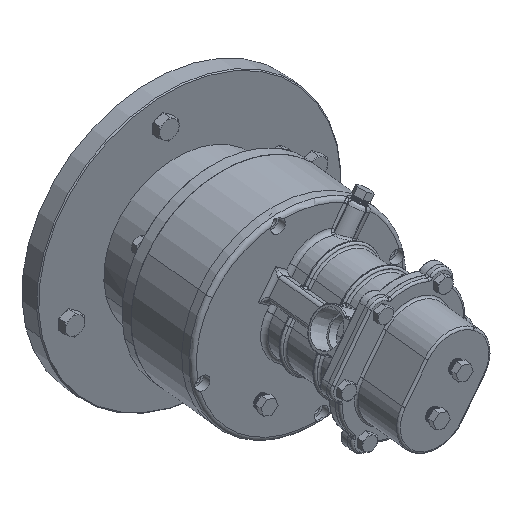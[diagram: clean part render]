
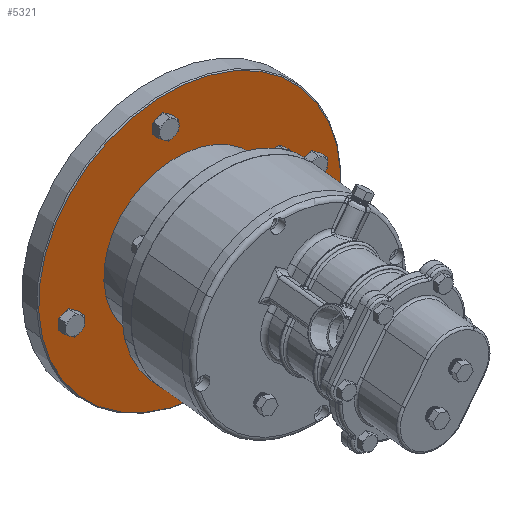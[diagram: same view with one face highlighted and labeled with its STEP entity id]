
A CAD part, left-side view. The second image highlights one B-rep face of the part: STEP entity #5321.
In plain terms, the highlighted planar face has unit normal (-0.668, -0.607, -0.431) as drawn and (0, 0, 1) by its records, which use the part's own axes.
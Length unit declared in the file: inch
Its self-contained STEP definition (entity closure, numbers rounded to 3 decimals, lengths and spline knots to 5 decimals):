
#198 = CARTESIAN_POINT ( 'NONE',  ( -0.28125, 3.625, 0.6 ) ) ;
#725 = CARTESIAN_POINT ( 'NONE',  ( 0., 0., 0.6 ) ) ;
#748 = DIRECTION ( 'NONE',  ( 1., 0., 0. ) ) ;
#1995 = EDGE_CURVE ( 'NONE', #20749, #5654, #6705, .T. ) ;
#2021 = VERTEX_POINT ( 'NONE', #29174 ) ;
#2352 = AXIS2_PLACEMENT_3D ( 'NONE', #11427, #22408, #33384 ) ;
#2671 = DIRECTION ( 'NONE',  ( 1., 0., 0. ) ) ;
#3735 = EDGE_LOOP ( 'NONE', ( #23057, #25587 ) ) ;
#3983 = CARTESIAN_POINT ( 'NONE',  ( 0., 3.625, 0.6 ) ) ;
#4232 = AXIS2_PLACEMENT_3D ( 'NONE', #4604, #9817, #26381 ) ;
#4425 = CARTESIAN_POINT ( 'NONE',  ( -4.39875, 0., 0.6 ) ) ;
#4491 = AXIS2_PLACEMENT_3D ( 'NONE', #26617, #18520, #21226 ) ;
#4604 = CARTESIAN_POINT ( 'NONE',  ( 0., -3.625, 0.6 ) ) ;
#4641 = CARTESIAN_POINT ( 'NONE',  ( 2.5, 0., 0.6 ) ) ;
#4677 = CARTESIAN_POINT ( 'NONE',  ( -2.5, 0., 0.6 ) ) ;
#5321 = ADVANCED_FACE ( 'NONE', ( #35129, #10478, #21484, #25241, #16785, #25077 ), #10832, .T. ) ;
#5654 = VERTEX_POINT ( 'NONE', #198 ) ;
#5755 = ORIENTED_EDGE ( 'NONE', *, *, #16629, .F. ) ;
#5763 = EDGE_CURVE ( 'NONE', #18726, #32126, #17936, .T. ) ;
#5972 = DIRECTION ( 'NONE',  ( 0., 0., 1. ) ) ;
#5997 = CARTESIAN_POINT ( 'NONE',  ( 0., 0., 0.6 ) ) ;
#6022 = CARTESIAN_POINT ( 'NONE',  ( -3.625, 0., 0.6 ) ) ;
#6641 = AXIS2_PLACEMENT_3D ( 'NONE', #3983, #14958, #15136 ) ;
#6705 = CIRCLE ( 'NONE', #26808, 0.28125 ) ;
#6740 = EDGE_CURVE ( 'NONE', #32335, #15333, #25901, .T. ) ;
#7145 = CARTESIAN_POINT ( 'NONE',  ( 0., 0., 0.6 ) ) ;
#7481 = DIRECTION ( 'NONE',  ( 0., 0., 1. ) ) ;
#9729 = EDGE_CURVE ( 'NONE', #10263, #20004, #23239, .T. ) ;
#9817 = DIRECTION ( 'NONE',  ( 0., 0., 1. ) ) ;
#9901 = DIRECTION ( 'NONE',  ( 1., 0., 0. ) ) ;
#10257 = EDGE_CURVE ( 'NONE', #31235, #28886, #21461, .T. ) ;
#10263 = VERTEX_POINT ( 'NONE', #29428 ) ;
#10464 = EDGE_LOOP ( 'NONE', ( #18206, #27876 ) ) ;
#10478 = FACE_BOUND ( 'NONE', #20433, .T. ) ;
#10532 = ORIENTED_EDGE ( 'NONE', *, *, #6740, .F. ) ;
#10655 = CIRCLE ( 'NONE', #6641, 0.28125 ) ;
#10832 = PLANE ( 'NONE',  #28415 ) ;
#11372 = EDGE_LOOP ( 'NONE', ( #21257, #26824 ) ) ;
#11427 = CARTESIAN_POINT ( 'NONE',  ( 3.625, 0., 0.6 ) ) ;
#12504 = EDGE_CURVE ( 'NONE', #28886, #31235, #26331, .T. ) ;
#12899 = AXIS2_PLACEMENT_3D ( 'NONE', #6022, #17006, #27968 ) ;
#13701 = CIRCLE ( 'NONE', #15432, 0.28125 ) ;
#14958 = DIRECTION ( 'NONE',  ( 0., 0., 1. ) ) ;
#15136 = DIRECTION ( 'NONE',  ( 1., 0., 0. ) ) ;
#15221 = CIRCLE ( 'NONE', #12899, 0.28125 ) ;
#15333 = VERTEX_POINT ( 'NONE', #18723 ) ;
#15432 = AXIS2_PLACEMENT_3D ( 'NONE', #24428, #30533, #2671 ) ;
#16179 = CARTESIAN_POINT ( 'NONE',  ( 0.28125, -3.625, 0.6 ) ) ;
#16629 = EDGE_CURVE ( 'NONE', #20004, #10263, #15221, .T. ) ;
#16785 = FACE_BOUND ( 'NONE', #10464, .T. ) ;
#16845 = EDGE_CURVE ( 'NONE', #15333, #32335, #13701, .T. ) ;
#16978 = DIRECTION ( 'NONE',  ( 1., 0., 0. ) ) ;
#17006 = DIRECTION ( 'NONE',  ( 0., 0., 1. ) ) ;
#17070 = DIRECTION ( 'NONE',  ( 1., 0., 0. ) ) ;
#17485 = AXIS2_PLACEMENT_3D ( 'NONE', #19637, #5972, #748 ) ;
#17777 = VERTEX_POINT ( 'NONE', #16179 ) ;
#17936 = CIRCLE ( 'NONE', #28817, 2.5 ) ;
#18206 = ORIENTED_EDGE ( 'NONE', *, *, #1995, .F. ) ;
#18466 = DIRECTION ( 'NONE',  ( 1., 0., 0. ) ) ;
#18520 = DIRECTION ( 'NONE',  ( 0., 0., 1. ) ) ;
#18723 = CARTESIAN_POINT ( 'NONE',  ( 3.90625, 0., 0.6 ) ) ;
#18726 = VERTEX_POINT ( 'NONE', #4677 ) ;
#18828 = CARTESIAN_POINT ( 'NONE',  ( 0., -3.625, 0.6 ) ) ;
#18980 = DIRECTION ( 'NONE',  ( 1., 0., 0. ) ) ;
#19637 = CARTESIAN_POINT ( 'NONE',  ( -3.625, 0., 0.6 ) ) ;
#19715 = EDGE_CURVE ( 'NONE', #5654, #20749, #10655, .T. ) ;
#20004 = VERTEX_POINT ( 'NONE', #33122 ) ;
#20343 = DIRECTION ( 'NONE',  ( 1., 0., 0. ) ) ;
#20433 = EDGE_LOOP ( 'NONE', ( #26887, #10532 ) ) ;
#20749 = VERTEX_POINT ( 'NONE', #30134 ) ;
#21102 = ORIENTED_EDGE ( 'NONE', *, *, #9729, .F. ) ;
#21226 = DIRECTION ( 'NONE',  ( 1., 0., 0. ) ) ;
#21257 = ORIENTED_EDGE ( 'NONE', *, *, #5763, .F. ) ;
#21461 = CIRCLE ( 'NONE', #28837, 4.39875 ) ;
#21484 = FACE_BOUND ( 'NONE', #31987, .T. ) ;
#22408 = DIRECTION ( 'NONE',  ( 0., 0., 1. ) ) ;
#22869 = EDGE_CURVE ( 'NONE', #17777, #2021, #23752, .T. ) ;
#23057 = ORIENTED_EDGE ( 'NONE', *, *, #10257, .T. ) ;
#23239 = CIRCLE ( 'NONE', #17485, 0.28125 ) ;
#23752 = CIRCLE ( 'NONE', #4232, 0.28125 ) ;
#23844 = ORIENTED_EDGE ( 'NONE', *, *, #22869, .F. ) ;
#24428 = CARTESIAN_POINT ( 'NONE',  ( 3.625, 0., 0.6 ) ) ;
#24539 = DIRECTION ( 'NONE',  ( 0., 0., 1. ) ) ;
#24743 = DIRECTION ( 'NONE',  ( 0., 0., 1. ) ) ;
#25077 = FACE_BOUND ( 'NONE', #11372, .T. ) ;
#25158 = DIRECTION ( 'NONE',  ( 0., 0., 1. ) ) ;
#25241 = FACE_BOUND ( 'NONE', #28142, .T. ) ;
#25430 = AXIS2_PLACEMENT_3D ( 'NONE', #18828, #24743, #18980 ) ;
#25472 = ORIENTED_EDGE ( 'NONE', *, *, #25904, .F. ) ;
#25587 = ORIENTED_EDGE ( 'NONE', *, *, #12504, .T. ) ;
#25598 = EDGE_CURVE ( 'NONE', #32126, #18726, #31168, .T. ) ;
#25901 = CIRCLE ( 'NONE', #2352, 0.28125 ) ;
#25904 = EDGE_CURVE ( 'NONE', #2021, #17777, #33466, .T. ) ;
#26331 = CIRCLE ( 'NONE', #4491, 4.39875 ) ;
#26381 = DIRECTION ( 'NONE',  ( 1., 0., 0. ) ) ;
#26617 = CARTESIAN_POINT ( 'NONE',  ( 0., 0., 0.6 ) ) ;
#26808 = AXIS2_PLACEMENT_3D ( 'NONE', #28990, #34556, #9901 ) ;
#26824 = ORIENTED_EDGE ( 'NONE', *, *, #25598, .F. ) ;
#26887 = ORIENTED_EDGE ( 'NONE', *, *, #16845, .F. ) ;
#27142 = AXIS2_PLACEMENT_3D ( 'NONE', #30908, #25158, #17070 ) ;
#27876 = ORIENTED_EDGE ( 'NONE', *, *, #19715, .F. ) ;
#27968 = DIRECTION ( 'NONE',  ( 1., 0., 0. ) ) ;
#28142 = EDGE_LOOP ( 'NONE', ( #5755, #21102 ) ) ;
#28415 = AXIS2_PLACEMENT_3D ( 'NONE', #5997, #24539, #16978 ) ;
#28604 = DIRECTION ( 'NONE',  ( 0., 0., 1. ) ) ;
#28817 = AXIS2_PLACEMENT_3D ( 'NONE', #725, #28604, #20343 ) ;
#28837 = AXIS2_PLACEMENT_3D ( 'NONE', #7145, #7481, #18466 ) ;
#28886 = VERTEX_POINT ( 'NONE', #33469 ) ;
#28990 = CARTESIAN_POINT ( 'NONE',  ( 0., 3.625, 0.6 ) ) ;
#29174 = CARTESIAN_POINT ( 'NONE',  ( -0.28125, -3.625, 0.6 ) ) ;
#29428 = CARTESIAN_POINT ( 'NONE',  ( -3.90625, 0., 0.6 ) ) ;
#30134 = CARTESIAN_POINT ( 'NONE',  ( 0.28125, 3.625, 0.6 ) ) ;
#30533 = DIRECTION ( 'NONE',  ( 0., 0., 1. ) ) ;
#30908 = CARTESIAN_POINT ( 'NONE',  ( 0., 0., 0.6 ) ) ;
#31168 = CIRCLE ( 'NONE', #27142, 2.5 ) ;
#31235 = VERTEX_POINT ( 'NONE', #4425 ) ;
#31987 = EDGE_LOOP ( 'NONE', ( #23844, #25472 ) ) ;
#32096 = CARTESIAN_POINT ( 'NONE',  ( 3.34375, 0., 0.6 ) ) ;
#32126 = VERTEX_POINT ( 'NONE', #4641 ) ;
#32335 = VERTEX_POINT ( 'NONE', #32096 ) ;
#33122 = CARTESIAN_POINT ( 'NONE',  ( -3.34375, 0., 0.6 ) ) ;
#33384 = DIRECTION ( 'NONE',  ( 1., 0., 0. ) ) ;
#33466 = CIRCLE ( 'NONE', #25430, 0.28125 ) ;
#33469 = CARTESIAN_POINT ( 'NONE',  ( 4.39875, 0., 0.6 ) ) ;
#34556 = DIRECTION ( 'NONE',  ( 0., 0., 1. ) ) ;
#35129 = FACE_OUTER_BOUND ( 'NONE', #3735, .T. ) ;
